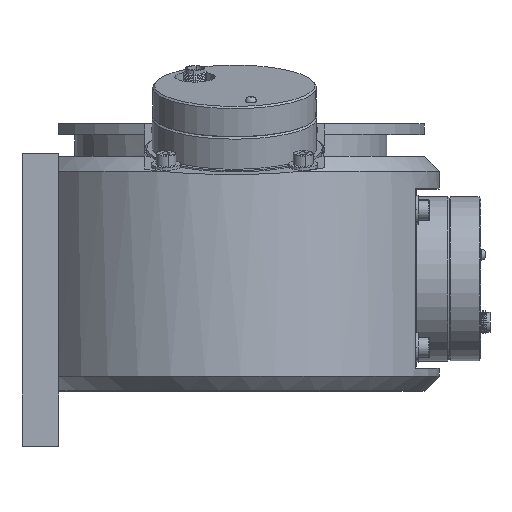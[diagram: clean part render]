
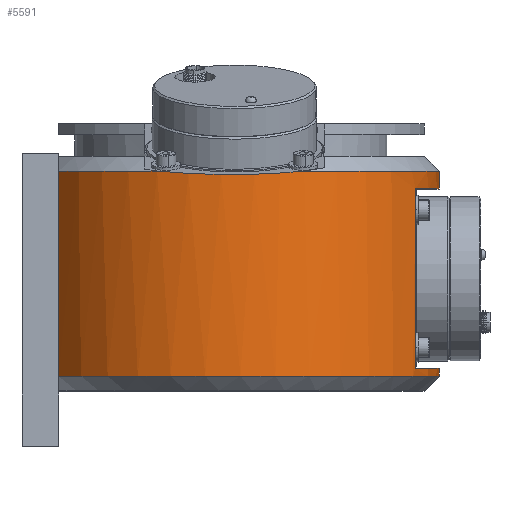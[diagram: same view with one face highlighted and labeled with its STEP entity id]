
A CAD part, top view. The second image highlights one B-rep face of the part: STEP entity #5591.
In plain terms, the highlighted cylindrical face has radius 57 mm (diameter 114 mm), a partial arc.
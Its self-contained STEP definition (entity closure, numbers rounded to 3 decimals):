
#1881 = EDGE_LOOP ( 'NONE', ( #5242, #5243, #5244, #5245, #5246, #5247, #5248 ) ) ;
#2909 = EDGE_LOOP ( 'NONE', ( #5238, #5239, #5240, #5241 ) ) ;
#5014 = VERTEX_POINT ( 'NONE', #13353 ) ;
#5022 = VERTEX_POINT ( 'NONE', #13361 ) ;
#5023 = VERTEX_POINT ( 'NONE', #13362 ) ;
#5030 = VERTEX_POINT ( 'NONE', #13369 ) ;
#5033 = VERTEX_POINT ( 'NONE', #13372 ) ;
#5041 = VERTEX_POINT ( 'NONE', #13380 ) ;
#5055 = VERTEX_POINT ( 'NONE', #13394 ) ;
#5057 = VERTEX_POINT ( 'NONE', #13396 ) ;
#5058 = VERTEX_POINT ( 'NONE', #13397 ) ;
#5060 = VERTEX_POINT ( 'NONE', #13399 ) ;
#5061 = VERTEX_POINT ( 'NONE', #13400 ) ;
#5238 = ORIENTED_EDGE ( 'NONE', *, *, #5463, .F. ) ;
#5239 = ORIENTED_EDGE ( 'NONE', *, *, #5464, .T. ) ;
#5240 = ORIENTED_EDGE ( 'NONE', *, *, #5465, .T. ) ;
#5241 = ORIENTED_EDGE ( 'NONE', *, *, #5466, .F. ) ;
#5242 = ORIENTED_EDGE ( 'NONE', *, *, #5467, .F. ) ;
#5243 = ORIENTED_EDGE ( 'NONE', *, *, #5458, .F. ) ;
#5244 = ORIENTED_EDGE ( 'NONE', *, *, #5407, .T. ) ;
#5245 = ORIENTED_EDGE ( 'NONE', *, *, #5468, .T. ) ;
#5246 = ORIENTED_EDGE ( 'NONE', *, *, #5410, .T. ) ;
#5247 = ORIENTED_EDGE ( 'NONE', *, *, #5392, .F. ) ;
#5248 = ORIENTED_EDGE ( 'NONE', *, *, #5462, .F. ) ;
#5392 = EDGE_CURVE ( 'NONE', #5022, #5023, #14047, .T. ) ;
#5407 = EDGE_CURVE ( 'NONE', #5014, #5030, #15069, .T. ) ;
#5410 = EDGE_CURVE ( 'NONE', #5033, #5023, #15087, .T. ) ;
#5458 = EDGE_CURVE ( 'NONE', #5014, #5041, #14138, .T. ) ;
#5462 = EDGE_CURVE ( 'NONE', #5055, #5022, #14140, .T. ) ;
#5463 = EDGE_CURVE ( 'NONE', #5057, #5058, #15246, .T. ) ;
#5464 = EDGE_CURVE ( 'NONE', #5057, #5060, #14141, .T. ) ;
#5465 = EDGE_CURVE ( 'NONE', #5060, #5061, #15256, .T. ) ;
#5466 = EDGE_CURVE ( 'NONE', #5058, #5061, #14146, .T. ) ;
#5467 = EDGE_CURVE ( 'NONE', #5041, #5055, #9741, .T. ) ;
#5468 = EDGE_CURVE ( 'NONE', #5030, #5033, #14149, .T. ) ;
#5591 = ADVANCED_FACE ( 'NONE', ( #16113, #16115 ), #16114, .T. ) ;
#9741 =( BOUNDED_CURVE ( )  B_SPLINE_CURVE ( 3, ( #15261, #15265, #15266, #15267 ),
 .UNSPECIFIED., .F., .T. ) 
 B_SPLINE_CURVE_WITH_KNOTS ( ( 4, 4 ),
 ( 2.782, 3.502 ),
 .UNSPECIFIED. ) 
 CURVE ( )  GEOMETRIC_REPRESENTATION_ITEM ( )  RATIONAL_B_SPLINE_CURVE ( ( 1., 0.957, 0.957, 1. ) ) 
 REPRESENTATION_ITEM ( '' )  );
#13353 = CARTESIAN_POINT ( 'NONE',  ( -47., 60., 32.249 ) ) ;
#13361 = CARTESIAN_POINT ( 'NONE',  ( 57., 60., 0. ) ) ;
#13362 = CARTESIAN_POINT ( 'NONE',  ( -47., 60., -32.249 ) ) ;
#13369 = CARTESIAN_POINT ( 'NONE',  ( -47., 4., 32.249 ) ) ;
#13372 = CARTESIAN_POINT ( 'NONE',  ( -47., 4., -32.249 ) ) ;
#13380 = CARTESIAN_POINT ( 'NONE',  ( -20.084, 60., 53.344 ) ) ;
#13394 = CARTESIAN_POINT ( 'NONE',  ( 20.084, 60., 53.344 ) ) ;
#13396 = CARTESIAN_POINT ( 'NONE',  ( 50.48, 55.17, 26.472 ) ) ;
#13397 = CARTESIAN_POINT ( 'NONE',  ( 50.48, 6.17, 26.472 ) ) ;
#13399 = CARTESIAN_POINT ( 'NONE',  ( 50.48, 55.17, -26.472 ) ) ;
#13400 = CARTESIAN_POINT ( 'NONE',  ( 50.48, 6.17, -26.472 ) ) ;
#14047 = CIRCLE ( 'NONE', #14052, 57. ) ;
#14052 = AXIS2_PLACEMENT_3D ( 'NONE', #15030, #15031, #15032 ) ;
#14056 = VECTOR ( 'NONE', #15089, 1000. ) ;
#14070 = VECTOR ( 'NONE', #15080, 1000. ) ;
#14138 = CIRCLE ( 'NONE', #14139, 57. ) ;
#14139 = AXIS2_PLACEMENT_3D ( 'NONE', #15236, #15237, #15238 ) ;
#14140 = CIRCLE ( 'NONE', #14143, 57. ) ;
#14141 = CIRCLE ( 'NONE', #14145, 57. ) ;
#14142 = VECTOR ( 'NONE', #15255, 1000. ) ;
#14143 = AXIS2_PLACEMENT_3D ( 'NONE', #15251, #15252, #15253 ) ;
#14144 = VECTOR ( 'NONE', #15260, 1000. ) ;
#14145 = AXIS2_PLACEMENT_3D ( 'NONE', #15257, #15258, #15259 ) ;
#14146 = CIRCLE ( 'NONE', #14148, 57. ) ;
#14148 = AXIS2_PLACEMENT_3D ( 'NONE', #15262, #15263, #15264 ) ;
#14149 = CIRCLE ( 'NONE', #14151, 57. ) ;
#14151 = AXIS2_PLACEMENT_3D ( 'NONE', #15268, #15269, #15270 ) ;
#14389 = AXIS2_PLACEMENT_3D ( 'NONE', #16116, #16112, #16111 ) ;
#15030 = CARTESIAN_POINT ( 'NONE',  ( 0., 60., 0. ) ) ;
#15031 = DIRECTION ( 'NONE',  ( 0., 1., 0. ) ) ;
#15032 = DIRECTION ( 'NONE',  ( -1., 0., 0. ) ) ;
#15069 = LINE ( 'NONE', #15070, #14070 ) ;
#15070 = CARTESIAN_POINT ( 'NONE',  ( -47., 73., 32.249 ) ) ;
#15080 = DIRECTION ( 'NONE',  ( 0., -1., 0. ) ) ;
#15087 = LINE ( 'NONE', #15088, #14056 ) ;
#15088 = CARTESIAN_POINT ( 'NONE',  ( -47., 73., -32.249 ) ) ;
#15089 = DIRECTION ( 'NONE',  ( 0., 1., 0. ) ) ;
#15236 = CARTESIAN_POINT ( 'NONE',  ( 0., 60., 0. ) ) ;
#15237 = DIRECTION ( 'NONE',  ( 0., 1., 0. ) ) ;
#15238 = DIRECTION ( 'NONE',  ( -1., 0., 0. ) ) ;
#15246 = LINE ( 'NONE', #15247, #14142 ) ;
#15247 = CARTESIAN_POINT ( 'NONE',  ( 50.48, 55.17, 26.472 ) ) ;
#15251 = CARTESIAN_POINT ( 'NONE',  ( 0., 60., 0. ) ) ;
#15252 = DIRECTION ( 'NONE',  ( 0., 1., 0. ) ) ;
#15253 = DIRECTION ( 'NONE',  ( -1., 0., 0. ) ) ;
#15254 = CARTESIAN_POINT ( 'NONE',  ( 50.48, 55.17, -26.472 ) ) ;
#15255 = DIRECTION ( 'NONE',  ( 0., -1., 0. ) ) ;
#15256 = LINE ( 'NONE', #15254, #14144 ) ;
#15257 = CARTESIAN_POINT ( 'NONE',  ( 0., 55.17, 0. ) ) ;
#15258 = DIRECTION ( 'NONE',  ( 0., 1., 0. ) ) ;
#15259 = DIRECTION ( 'NONE',  ( 0., 0., 1. ) ) ;
#15260 = DIRECTION ( 'NONE',  ( 0., -1., 0. ) ) ;
#15261 = CARTESIAN_POINT ( 'NONE',  ( -20.084, 60., 53.344 ) ) ;
#15262 = CARTESIAN_POINT ( 'NONE',  ( 0., 6.17, 0. ) ) ;
#15263 = DIRECTION ( 'NONE',  ( 0., 1., 0. ) ) ;
#15264 = DIRECTION ( 'NONE',  ( 0., 0., 1. ) ) ;
#15265 = CARTESIAN_POINT ( 'NONE',  ( -6.994, 58.679, 58.273 ) ) ;
#15266 = CARTESIAN_POINT ( 'NONE',  ( 6.994, 58.679, 58.273 ) ) ;
#15267 = CARTESIAN_POINT ( 'NONE',  ( 20.084, 60., 53.344 ) ) ;
#15268 = CARTESIAN_POINT ( 'NONE',  ( 0., 4., 0. ) ) ;
#15269 = DIRECTION ( 'NONE',  ( 0., 1., 0. ) ) ;
#15270 = DIRECTION ( 'NONE',  ( -1., 0., 0. ) ) ;
#16111 = DIRECTION ( 'NONE',  ( -1., 0., 0. ) ) ;
#16112 = DIRECTION ( 'NONE',  ( 0., 1., 0. ) ) ;
#16113 = FACE_BOUND ( 'NONE', #2909, .T. ) ;
#16114 = CYLINDRICAL_SURFACE ( 'NONE', #14389, 57. ) ;
#16115 = FACE_OUTER_BOUND ( 'NONE', #1881, .T. ) ;
#16116 = CARTESIAN_POINT ( 'NONE',  ( 0., 73., 0. ) ) ;
